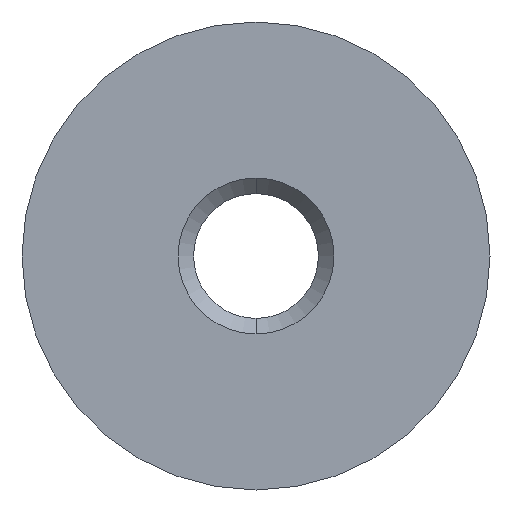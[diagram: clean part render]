
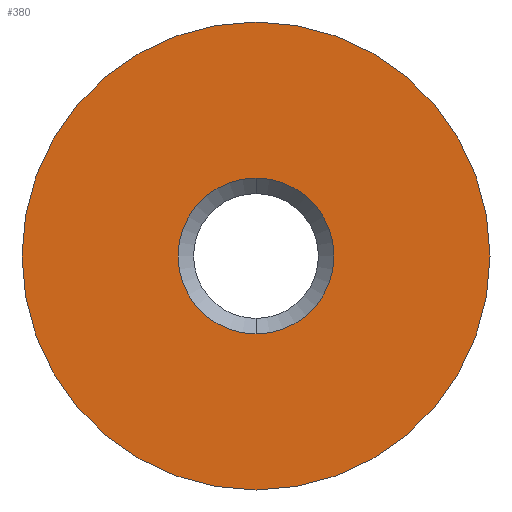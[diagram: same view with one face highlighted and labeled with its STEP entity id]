
A CAD part, front view. The second image highlights one B-rep face of the part: STEP entity #380.
In plain terms, the highlighted planar face has unit normal (0, -1, 0).
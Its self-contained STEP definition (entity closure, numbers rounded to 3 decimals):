
#15 = CARTESIAN_POINT ( 'NONE',  ( 0., -3., 0. ) ) ;
#20 = AXIS2_PLACEMENT_3D ( 'NONE', #361, #283, #157 ) ;
#36 = DIRECTION ( 'NONE',  ( 0., 0., -1. ) ) ;
#37 = VERTEX_POINT ( 'NONE', #339 ) ;
#39 = CIRCLE ( 'NONE', #384, 3. ) ;
#45 = EDGE_CURVE ( 'NONE', #375, #187, #39, .T. ) ;
#57 = CIRCLE ( 'NONE', #379, 1. ) ;
#144 = EDGE_CURVE ( 'NONE', #308, #37, #198, .T. ) ;
#157 = DIRECTION ( 'NONE',  ( 0., 0., -1. ) ) ;
#163 = CARTESIAN_POINT ( 'NONE',  ( -1., -3., 0. ) ) ;
#165 = ORIENTED_EDGE ( 'NONE', *, *, #144, .F. ) ;
#167 = ORIENTED_EDGE ( 'NONE', *, *, #45, .T. ) ;
#168 = CIRCLE ( 'NONE', #20, 3. ) ;
#187 = VERTEX_POINT ( 'NONE', #355 ) ;
#191 = ORIENTED_EDGE ( 'NONE', *, *, #315, .F. ) ;
#198 = CIRCLE ( 'NONE', #326, 1. ) ;
#201 = FACE_OUTER_BOUND ( 'NONE', #225, .T. ) ;
#214 = DIRECTION ( 'NONE',  ( 0., -1., 0. ) ) ;
#220 = CARTESIAN_POINT ( 'NONE',  ( 0., -3., 0. ) ) ;
#225 = EDGE_LOOP ( 'NONE', ( #167, #346 ) ) ;
#231 = CARTESIAN_POINT ( 'NONE',  ( 0., -3., -3. ) ) ;
#283 = DIRECTION ( 'NONE',  ( 0., -1., 0. ) ) ;
#289 = DIRECTION ( 'NONE',  ( 0., -1., 0. ) ) ;
#305 = EDGE_CURVE ( 'NONE', #187, #375, #168, .T. ) ;
#308 = VERTEX_POINT ( 'NONE', #359 ) ;
#309 = DIRECTION ( 'NONE',  ( 0., 0., -1. ) ) ;
#312 = DIRECTION ( 'NONE',  ( 0., 0., -1. ) ) ;
#315 = EDGE_CURVE ( 'NONE', #37, #308, #57, .T. ) ;
#317 = AXIS2_PLACEMENT_3D ( 'NONE', #163, #335, #376 ) ;
#326 = AXIS2_PLACEMENT_3D ( 'NONE', #345, #368, #309 ) ;
#331 = FACE_BOUND ( 'NONE', #357, .T. ) ;
#335 = DIRECTION ( 'NONE',  ( 0., 1., 0. ) ) ;
#339 = CARTESIAN_POINT ( 'NONE',  ( 0., -3., -1. ) ) ;
#345 = CARTESIAN_POINT ( 'NONE',  ( 0., -3., 0. ) ) ;
#346 = ORIENTED_EDGE ( 'NONE', *, *, #305, .T. ) ;
#355 = CARTESIAN_POINT ( 'NONE',  ( 0., -3., 3. ) ) ;
#357 = EDGE_LOOP ( 'NONE', ( #191, #165 ) ) ;
#359 = CARTESIAN_POINT ( 'NONE',  ( 0., -3., 1. ) ) ;
#361 = CARTESIAN_POINT ( 'NONE',  ( 0., -3., 0. ) ) ;
#362 = PLANE ( 'NONE',  #317 ) ;
#368 = DIRECTION ( 'NONE',  ( 0., -1., 0. ) ) ;
#375 = VERTEX_POINT ( 'NONE', #231 ) ;
#376 = DIRECTION ( 'NONE',  ( 0., 0., 1. ) ) ;
#379 = AXIS2_PLACEMENT_3D ( 'NONE', #15, #289, #36 ) ;
#380 = ADVANCED_FACE ( 'NONE', ( #331, #201 ), #362, .F. ) ;
#384 = AXIS2_PLACEMENT_3D ( 'NONE', #220, #214, #312 ) ;
